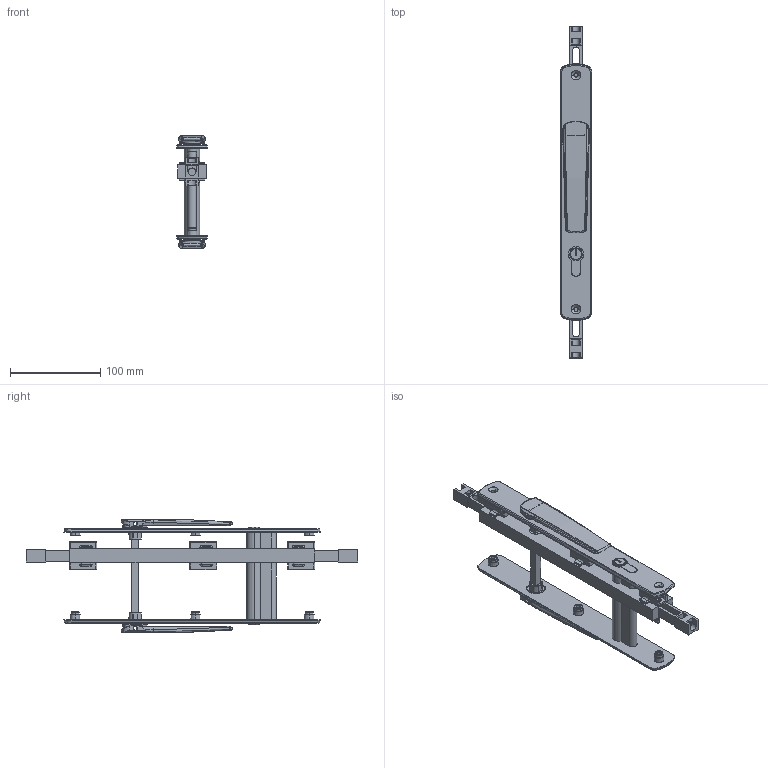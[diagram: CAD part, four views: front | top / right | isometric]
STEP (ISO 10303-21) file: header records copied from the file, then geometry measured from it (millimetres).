
FILE_DESCRIPTION (( 'STEP AP214' ), '1' );
FILE_NAME ('TPL-H-EU-604-C 30Oct2024.STEP', '2024-10-30T03:37:12', ( '' ), ( '' ), 'SwSTEP 2.0', 'SolidWorks 2023', '' );
FILE_SCHEMA (( 'AUTOMOTIVE_DESIGN' ));
Length unit declared in the file: millimetre
Products named in the file (17): Copy of LKC-584 Pivot body zinc - simplified^Copy of TPGen2 handle keyed external zinc - simplified_TPL-H-EU-104 30Oct2024; Copy of LKC-584 Pivot body zinc - simplified^Copy (2) of TPGen2 handle keyed internal zinc - simplified_TPL-H-EU-104 30Oct2024; Copy (2) of TPLGen2 lock body keyed assembly^TPL-H-EU-104 30Oct2024_Bolts extended - left; TPL-H-EU-604-C 30Oct2024; Copy (2) of TPGen2 handle keyed internal zinc - simplified^TPL-H-EU-104 30Oct2024_Vertical; Copy of TPLGen2 push rod - simplified^Copy (2) of TPLGen2 lock body keyed assembly_TPL-H-EU-104 30Oct2024_Female thread M10; Copy of LKC-505 Swing handle zinc - simplified^Copy of TPGen2 handle keyed external zinc - simplified_TPL-H-EU-104 30Oct2024; Copy of LKC-514 Escutcheon plate keyed external 285mm long zinc - simplified^Copy of TPGen2 handle keyed external zinc - simplified_TPL-H-EU-104 30Oct2024; Copy of TPL-H-APC-515 04Oct2024^TPL-H-EU-104 30Oct2024; Copy of TPGen2 handle keyed external zinc - simplified^TPL-H-EU-104 30Oct2024_Vertical; Copy of LKC-512 Escutcheon plate keyed internal 285mm long zinc - simplified^Copy (2) of TPGen2 handle keyed internal zinc - simplified_TPL-H-EU-104 30Oct2024; Copy of TPL-H-EU-006 29Oct2024^TPL-H-EU-104 30Oct2024_TPL-050-105 Left; Copy of LKC-505 Swing handle zinc - simplified^Copy (2) of TPGen2 handle keyed internal zinc - simplified_TPL-H-EU-104 30Oct2024; Copy of LKC-585 Rotator body zinc^Copy of TPGen2 handle keyed external zinc - simplified_TPL-H-EU-104 30Oct2024; Copy of LKC-585 Rotator body zinc^Copy (2) of TPGen2 handle keyed internal zinc - simplified_TPL-H-EU-104 30Oct2024; Copy of TPLGen2 lock body keyed^Copy (2) of TPLGen2 lock body keyed assembly_TPL-H-EU-104 30Oct2024_Left; Copy of LKC-586 Spindle square 8mm with M4 hole^Copy (2) of TPGen2 handle keyed internal zinc - simplified_TPL-H-EU-104 30Oct2024_100mm
Assembly tree (22 placements, depth 3):
  TPL-H-EU-604-C 30Oct2024
    Copy (2) of TPLGen2 lock body keyed assembly^TPL-H-EU-104 30Oct2024_Bolts extended - left
      Copy of TPLGen2 lock body keyed^Copy (2) of TPLGen2 lock body keyed assembly_TPL-H-EU-104 30Oct2024_Left
      Copy of TPLGen2 push rod - simplified^Copy (2) of TPLGen2 lock body keyed assembly_TPL-H-EU-104 30Oct2024_Female thread M10  x2
    Copy (2) of TPGen2 handle keyed internal zinc - simplified^TPL-H-EU-104 30Oct2024_Vertical
      Copy of LKC-512 Escutcheon plate keyed internal 285mm long zinc - simplified^Copy (2) of TPGen2 handle keyed internal zinc - simplified_TPL-H-EU-104 30Oct2024
      Copy of LKC-505 Swing handle zinc - simplified^Copy (2) of TPGen2 handle keyed internal zinc - simplified_TPL-H-EU-104 30Oct2024
      Copy of LKC-585 Rotator body zinc^Copy (2) of TPGen2 handle keyed internal zinc - simplified_TPL-H-EU-104 30Oct2024
      Copy of LKC-586 Spindle square 8mm with M4 hole^Copy (2) of TPGen2 handle keyed internal zinc - simplified_TPL-H-EU-104 30Oct2024_100mm
      Copy of LKC-584 Pivot body zinc - simplified^Copy (2) of TPGen2 handle keyed internal zinc - simplified_TPL-H-EU-104 30Oct2024
    Copy of TPGen2 handle keyed external zinc - simplified^TPL-H-EU-104 30Oct2024_Vertical
      Copy of LKC-514 Escutcheon plate keyed external 285mm long zinc - simplified^Copy of TPGen2 handle keyed external zinc - simplified_TPL-H-EU-104 30Oct2024
      Copy of LKC-505 Swing handle zinc - simplified^Copy of TPGen2 handle keyed external zinc - simplified_TPL-H-EU-104 30Oct2024
      Copy of LKC-585 Rotator body zinc^Copy of TPGen2 handle keyed external zinc - simplified_TPL-H-EU-104 30Oct2024
      Copy of LKC-584 Pivot body zinc - simplified^Copy of TPGen2 handle keyed external zinc - simplified_TPL-H-EU-104 30Oct2024
    Copy of TPL-H-EU-006 29Oct2024^TPL-H-EU-104 30Oct2024_TPL-050-105 Left
    Copy of TPL-H-APC-515 04Oct2024^TPL-H-EU-104 30Oct2024  x6
Bounding box: 35 x 368.6 x 125.92 mm (x, y, z)
Volume: 308625.4 mm3; surface area: 136798.5 mm2
Topology: 19 solids, 19 shells, 2041 faces, 4936 edges, 2970 vertices
Faces by surface type: cylinder 623, plane 560, bspline 448, torus 224, cone 128, sphere 58
Entity records: 48999 total; most frequent: CARTESIAN_POINT 22192, ORIENTED_EDGE 5904, DIRECTION 5044, EDGE_CURVE 2952, AXIS2_PLACEMENT_3D 2050, VERTEX_POINT 1770, EDGE_LOOP 1370, ADVANCED_FACE 1251
